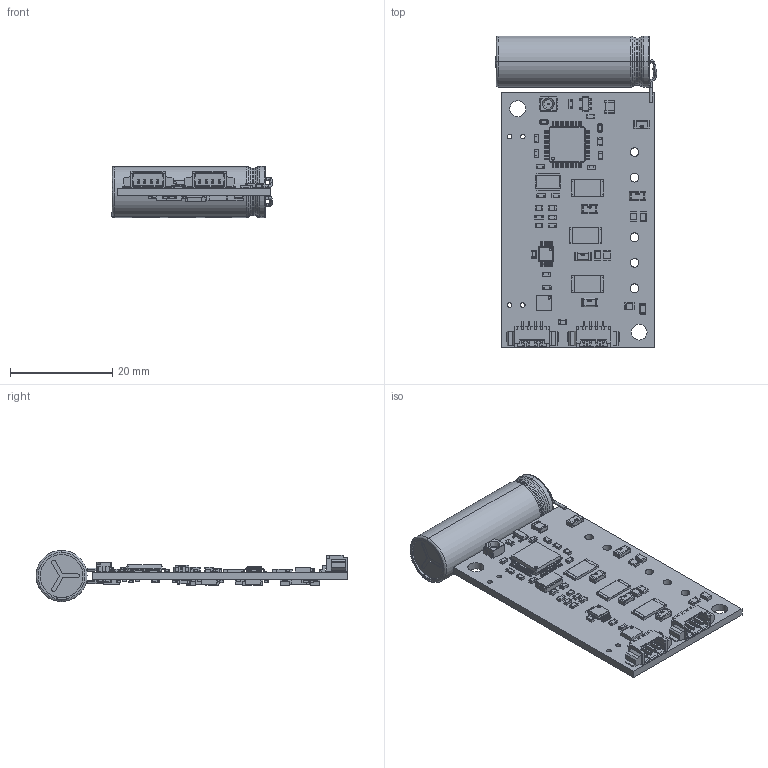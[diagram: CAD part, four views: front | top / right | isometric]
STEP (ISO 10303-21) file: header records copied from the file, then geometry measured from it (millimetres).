
FILE_DESCRIPTION(('Open CASCADE Model'),'2;1');
FILE_NAME('Open CASCADE Shape Model','2017-09-18T17:32:46',('Author'),( 'Open CASCADE'),'Open CASCADE STEP processor 6.8','Open CASCADE 6.8' ,'Unknown');
FILE_SCHEMA(('AUTOMOTIVE_DESIGN { 1 0 10303 214 1 1 1 1 }'));
Length unit declared in the file: millimetre
Products named in the file (121): PCB; Board; R24; Resistors_0603; R18; C36; 1206_SMD_Capacitor; R4; Chip_Resistor_2512_(6432); Q2; 855491520; Cylinder; 850729664; Extruded; C8; CAPC1608X___; C7; P10; 532610471; P9; L2; CVH252009; C10; C11; Q3; R5; C37; R23; R22; C38; C1; C2; C12; C13; C14; C15; C16; C17; C18; C19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
Assembly tree (237 placements, depth 5):
  PCB
    Board
    R24
      Resistors_0603
    R18
      Resistors_0603
    C36
      1206_SMD_Capacitor
    R4
      Chip_Resistor_2512_(6432)
    Q2
      855491520
        Cylinder
      850729664
        Extruded
    C8
      CAPC1608X___
    C7
      CAPC1608X___
    P10
      532610471
    P9
      532610471
    L2
      CVH252009
    C10
      CAPC1608X___
    C11
      CAPC1608X___
    Q3
      855491520
        Cylinder
      850729664
        Extruded
    R5
      Chip_Resistor_2512_(6432)
    C37
      1206_SMD_Capacitor
    R23
      Resistors_0603
    R22
      Resistors_0603
    C38
      CAPC1608X___
    C1
      CAPC1608X___
    C2
      CAPC1608X___
    C12
      CAPC1608X___
    C13
      CAPC1608X___
    C14
      CAPC1608X___
    C15
      CAPC1608X___
    C16
      CAPC1608X___
    C17
      CAPC1608X___
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Bounding box: 31.6 x 61.15 x 10.03 mm (x, y, z)
Volume: 5061.2 mm3; surface area: 6699.1 mm2
Topology: 194 solids, 200 shells, 7410 faces, 18193 edges, 10955 vertices
Faces by surface type: plane 3981, cylinder 2358, bspline 622, torus 312, sphere 128, cone 9
Full cylindrical faces by diameter (mm): 0.5 x8, 0.9 x4, 1.7 x5, 3.1 x2
Entity records: 79322 total; most frequent: CARTESIAN_POINT 21203, DIRECTION 9488, ORIENTED_EDGE 9210, EDGE_CURVE 4607, AXIS2_PLACEMENT_3D 3305, LINE 2878, VECTOR 2878, VERTEX_POINT 2792
